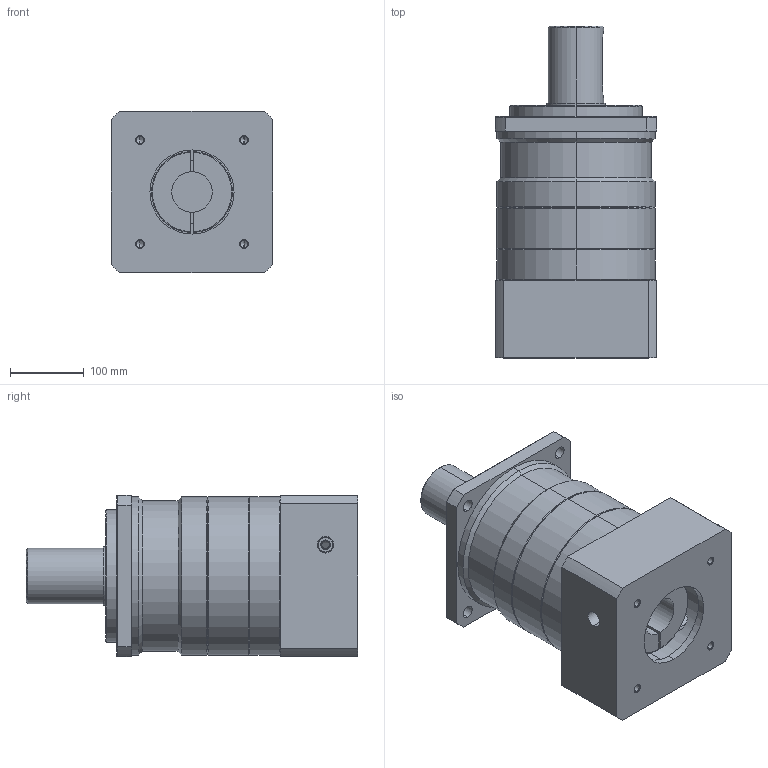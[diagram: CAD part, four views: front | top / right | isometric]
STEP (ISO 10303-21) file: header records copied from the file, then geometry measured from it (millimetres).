
FILE_DESCRIPTION (( 'STEP AP203' ), '1' );
FILE_NAME ('MF220X-L2£r114.3PCD£r200M12.STEP', '2014-04-16T08:13:53', ( 'KELLY' ), ( '' ), 'SwSTEP 2.0', 'SolidWorks 2012', '' );
FILE_SCHEMA (( 'CONFIG_CONTROL_DESIGN' ));
Length unit declared in the file: millimetre
Products named in the file (1): MF220X-L2｣r114.3PCD｣r200M12
Bounding box: 220 x 451 x 220 mm (x, y, z)
Volume: 12509187.9 mm3; surface area: 688475.8 mm2
Topology: 3 solids, 3 shells, 161 faces, 378 edges, 229 vertices
Faces by surface type: cylinder 70, cone 46, plane 41, torus 4
Entity records: 5343 total; most frequent: CARTESIAN_POINT 1509, DIRECTION 832, ORIENTED_EDGE 736, EDGE_CURVE 368, AXIS2_PLACEMENT_3D 332, VERTEX_POINT 229, EDGE_LOOP 197, CIRCLE 170
